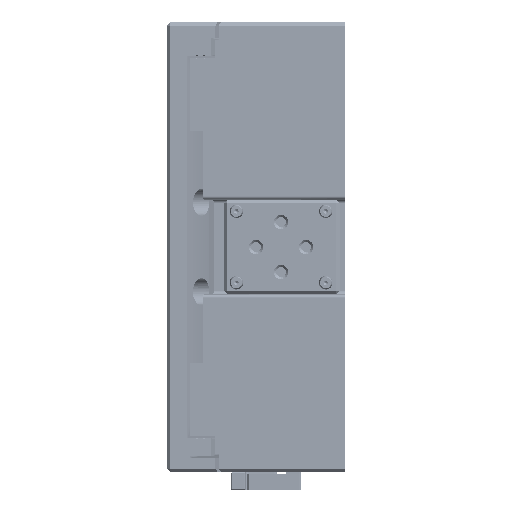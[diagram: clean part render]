
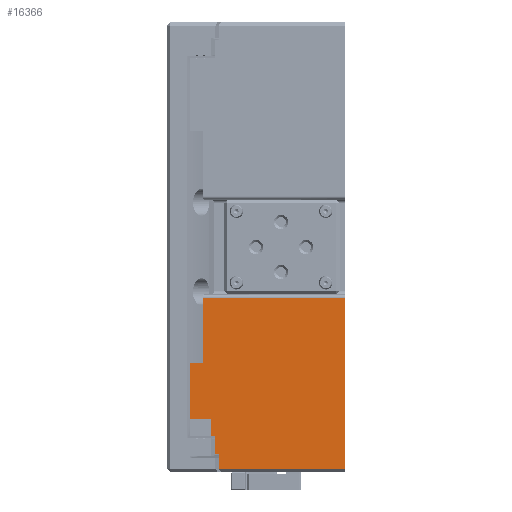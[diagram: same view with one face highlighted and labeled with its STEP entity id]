
A CAD part, left-side view. The second image highlights one B-rep face of the part: STEP entity #16366.
In plain terms, the highlighted planar face has unit normal (-1, 0, 0).
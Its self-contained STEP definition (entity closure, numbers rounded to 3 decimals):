
#1978 = ORIENTED_EDGE ( 'NONE', *, *, #77003, .T. ) ;
#3671 = VERTEX_POINT ( 'NONE', #18504 ) ;
#3803 = VERTEX_POINT ( 'NONE', #76704 ) ;
#5040 = LINE ( 'NONE', #51454, #99528 ) ;
#5212 = VERTEX_POINT ( 'NONE', #10853 ) ;
#6022 = LINE ( 'NONE', #38656, #41437 ) ;
#8571 = CARTESIAN_POINT ( 'NONE',  ( -126., 87.156, -106. ) ) ;
#10853 = CARTESIAN_POINT ( 'NONE',  ( -126., 70.914, -116. ) ) ;
#11138 = ORIENTED_EDGE ( 'NONE', *, *, #97359, .T. ) ;
#11176 = VECTOR ( 'NONE', #13368, 1000. ) ;
#12222 = ORIENTED_EDGE ( 'NONE', *, *, #37658, .T. ) ;
#12673 = CARTESIAN_POINT ( 'NONE',  ( -126., 87.156, -96. ) ) ;
#13245 = EDGE_LOOP ( 'NONE', ( #11138, #44073, #70526, #54290, #12222, #1978, #62786, #29345, #20869, #95347, #40892, #64697 ) ) ;
#13368 = DIRECTION ( 'NONE',  ( 0., 1., 0. ) ) ;
#14069 = PLANE ( 'NONE',  #73886 ) ;
#16342 = VERTEX_POINT ( 'NONE', #38319 ) ;
#16366 = ADVANCED_FACE ( 'NONE', ( #60501 ), #14069, .F. ) ;
#16399 = DIRECTION ( 'NONE',  ( 0., -1., 0. ) ) ;
#16937 = VECTOR ( 'NONE', #87940, 1000. ) ;
#17033 = DIRECTION ( 'NONE',  ( 0., 0., 1. ) ) ;
#18322 = EDGE_CURVE ( 'NONE', #54350, #95502, #46342, .T. ) ;
#18504 = CARTESIAN_POINT ( 'NONE',  ( -126., 79.883, -65. ) ) ;
#20869 = ORIENTED_EDGE ( 'NONE', *, *, #21355, .T. ) ;
#21355 = EDGE_CURVE ( 'NONE', #3803, #75380, #86589, .T. ) ;
#21459 = VECTOR ( 'NONE', #16399, 1000. ) ;
#21842 = VECTOR ( 'NONE', #49322, 1000. ) ;
#23126 = LINE ( 'NONE', #77264, #54836 ) ;
#28226 = DIRECTION ( 'NONE',  ( 0., 0., 1. ) ) ;
#28738 = CARTESIAN_POINT ( 'NONE',  ( -126., 0., 126. ) ) ;
#29345 = ORIENTED_EDGE ( 'NONE', *, *, #101584, .T. ) ;
#31491 = LINE ( 'NONE', #72195, #97074 ) ;
#32107 = CARTESIAN_POINT ( 'NONE',  ( -126., 72.698, -116. ) ) ;
#35035 = CARTESIAN_POINT ( 'NONE',  ( -126., 0., -124. ) ) ;
#37616 = LINE ( 'NONE', #84023, #11176 ) ;
#37658 = EDGE_CURVE ( 'NONE', #85779, #85322, #5040, .T. ) ;
#38319 = CARTESIAN_POINT ( 'NONE',  ( -126., 79.883, -28.5 ) ) ;
#38656 = CARTESIAN_POINT ( 'NONE',  ( -126., 72.698, -116. ) ) ;
#40892 = ORIENTED_EDGE ( 'NONE', *, *, #65465, .T. ) ;
#40918 = VERTEX_POINT ( 'NONE', #50389 ) ;
#41437 = VECTOR ( 'NONE', #62866, 1000. ) ;
#43138 = LINE ( 'NONE', #82290, #21842 ) ;
#43959 = EDGE_CURVE ( 'NONE', #85779, #3671, #89492, .T. ) ;
#44073 = ORIENTED_EDGE ( 'NONE', *, *, #88765, .T. ) ;
#44769 = DIRECTION ( 'NONE',  ( 0., 0., -1. ) ) ;
#45247 = VECTOR ( 'NONE', #95323, 1000. ) ;
#46070 = DIRECTION ( 'NONE',  ( 0., 0., -1. ) ) ;
#46342 = LINE ( 'NONE', #62295, #21459 ) ;
#49322 = DIRECTION ( 'NONE',  ( 0., 0., -1. ) ) ;
#50389 = CARTESIAN_POINT ( 'NONE',  ( -126., 75.084, -106. ) ) ;
#51454 = CARTESIAN_POINT ( 'NONE',  ( -126., 87.156, -140. ) ) ;
#51636 = VECTOR ( 'NONE', #28226, 1000. ) ;
#52758 = CARTESIAN_POINT ( 'NONE',  ( -126., 88., 126. ) ) ;
#54290 = ORIENTED_EDGE ( 'NONE', *, *, #43959, .F. ) ;
#54350 = VERTEX_POINT ( 'NONE', #95706 ) ;
#54836 = VECTOR ( 'NONE', #78286, 1000. ) ;
#56580 = VERTEX_POINT ( 'NONE', #65799 ) ;
#57030 = CARTESIAN_POINT ( 'NONE',  ( -126., 87.156, -65. ) ) ;
#60501 = FACE_OUTER_BOUND ( 'NONE', #13245, .T. ) ;
#62295 = CARTESIAN_POINT ( 'NONE',  ( -126., 88., -124. ) ) ;
#62786 = ORIENTED_EDGE ( 'NONE', *, *, #98607, .T. ) ;
#62866 = DIRECTION ( 'NONE',  ( 0., -1., 0. ) ) ;
#64097 = VECTOR ( 'NONE', #81749, 1000. ) ;
#64697 = ORIENTED_EDGE ( 'NONE', *, *, #18322, .T. ) ;
#65465 = EDGE_CURVE ( 'NONE', #5212, #54350, #65879, .T. ) ;
#65799 = CARTESIAN_POINT ( 'NONE',  ( -126., 75.084, -96. ) ) ;
#65879 = LINE ( 'NONE', #97346, #87520 ) ;
#66765 = EDGE_CURVE ( 'NONE', #75380, #5212, #6022, .T. ) ;
#66885 = DIRECTION ( 'NONE',  ( 0., 0., -1. ) ) ;
#70474 = EDGE_CURVE ( 'NONE', #3671, #16342, #31491, .T. ) ;
#70526 = ORIENTED_EDGE ( 'NONE', *, *, #70474, .F. ) ;
#72195 = CARTESIAN_POINT ( 'NONE',  ( -126., 79.883, -65. ) ) ;
#72699 = VERTEX_POINT ( 'NONE', #84699 ) ;
#73886 = AXIS2_PLACEMENT_3D ( 'NONE', #52758, #91443, #46070 ) ;
#75380 = VERTEX_POINT ( 'NONE', #32107 ) ;
#75992 = CARTESIAN_POINT ( 'NONE',  ( -126., 87.156, -65. ) ) ;
#76704 = CARTESIAN_POINT ( 'NONE',  ( -126., 72.698, -106. ) ) ;
#77003 = EDGE_CURVE ( 'NONE', #85322, #56580, #23126, .T. ) ;
#77264 = CARTESIAN_POINT ( 'NONE',  ( -126., 87.156, -96. ) ) ;
#78286 = DIRECTION ( 'NONE',  ( 0., -1., 0. ) ) ;
#80848 = CARTESIAN_POINT ( 'NONE',  ( -126., 72.698, -106. ) ) ;
#81749 = DIRECTION ( 'NONE',  ( 0., -1., 0. ) ) ;
#82290 = CARTESIAN_POINT ( 'NONE',  ( -126., 75.084, -96. ) ) ;
#82900 = LINE ( 'NONE', #28738, #51636 ) ;
#84023 = CARTESIAN_POINT ( 'NONE',  ( -126., 88., -28.5 ) ) ;
#84699 = CARTESIAN_POINT ( 'NONE',  ( -126., 0., -28.5 ) ) ;
#85322 = VERTEX_POINT ( 'NONE', #12673 ) ;
#85779 = VERTEX_POINT ( 'NONE', #75992 ) ;
#86589 = LINE ( 'NONE', #80848, #45247 ) ;
#86939 = LINE ( 'NONE', #8571, #16937 ) ;
#87520 = VECTOR ( 'NONE', #66885, 1000. ) ;
#87940 = DIRECTION ( 'NONE',  ( 0., -1., 0. ) ) ;
#88765 = EDGE_CURVE ( 'NONE', #72699, #16342, #37616, .T. ) ;
#89492 = LINE ( 'NONE', #57030, #64097 ) ;
#91443 = DIRECTION ( 'NONE',  ( 1., 0., 0. ) ) ;
#95323 = DIRECTION ( 'NONE',  ( 0., 0., -1. ) ) ;
#95347 = ORIENTED_EDGE ( 'NONE', *, *, #66765, .T. ) ;
#95502 = VERTEX_POINT ( 'NONE', #35035 ) ;
#95706 = CARTESIAN_POINT ( 'NONE',  ( -126., 70.914, -124. ) ) ;
#97074 = VECTOR ( 'NONE', #17033, 1000. ) ;
#97346 = CARTESIAN_POINT ( 'NONE',  ( -126., 70.914, -116. ) ) ;
#97359 = EDGE_CURVE ( 'NONE', #95502, #72699, #82900, .T. ) ;
#98607 = EDGE_CURVE ( 'NONE', #56580, #40918, #43138, .T. ) ;
#99528 = VECTOR ( 'NONE', #44769, 1000. ) ;
#101584 = EDGE_CURVE ( 'NONE', #40918, #3803, #86939, .T. ) ;
